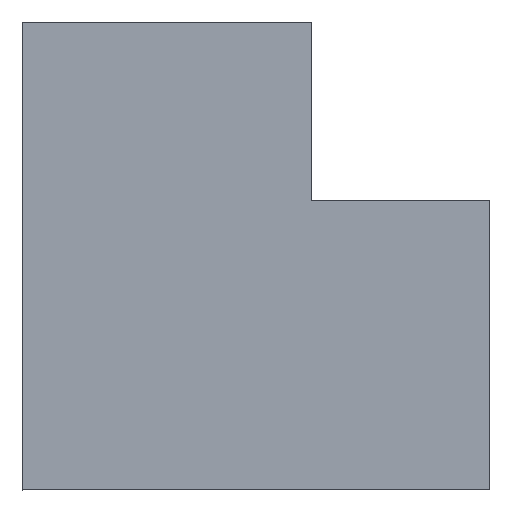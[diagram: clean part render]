
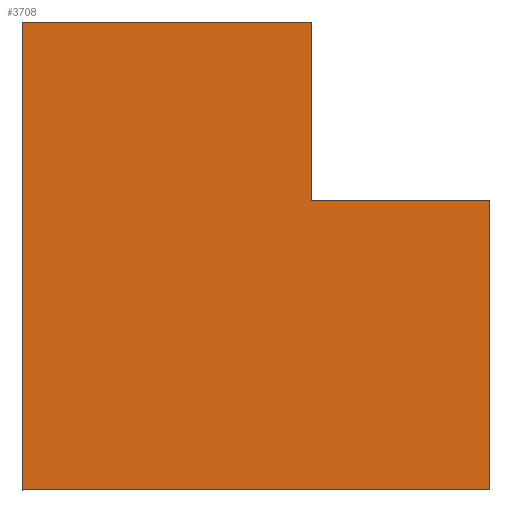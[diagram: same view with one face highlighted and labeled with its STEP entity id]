
A CAD part, top view. The second image highlights one B-rep face of the part: STEP entity #3708.
In plain terms, the highlighted planar face has unit normal (0, 0, 1).
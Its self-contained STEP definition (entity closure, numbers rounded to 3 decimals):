
#194=FACE_OUTER_BOUND('',#396,.T.);
#396=EDGE_LOOP('',(#2992,#2993,#2994,#2995,#2996,#2997));
#777=LINE('',#5631,#1277);
#809=LINE('',#5696,#1309);
#810=LINE('',#5698,#1310);
#811=LINE('',#5699,#1311);
#812=LINE('',#5701,#1312);
#813=LINE('',#5702,#1313);
#1277=VECTOR('',#4573,304.8);
#1309=VECTOR('',#4621,304.8);
#1310=VECTOR('',#4622,304.8);
#1311=VECTOR('',#4623,304.8);
#1312=VECTOR('',#4624,304.8);
#1313=VECTOR('',#4625,304.8);
#1713=VERTEX_POINT('',#5628);
#1714=VERTEX_POINT('',#5630);
#1738=VERTEX_POINT('',#5694);
#1739=VERTEX_POINT('',#5695);
#1740=VERTEX_POINT('',#5697);
#1741=VERTEX_POINT('',#5700);
#2155=EDGE_CURVE('',#1714,#1713,#777,.T.);
#2187=EDGE_CURVE('',#1738,#1739,#809,.T.);
#2188=EDGE_CURVE('',#1740,#1738,#810,.T.);
#2189=EDGE_CURVE('',#1714,#1740,#811,.T.);
#2190=EDGE_CURVE('',#1741,#1713,#812,.T.);
#2191=EDGE_CURVE('',#1739,#1741,#813,.T.);
#2992=ORIENTED_EDGE('',*,*,#2187,.F.);
#2993=ORIENTED_EDGE('',*,*,#2188,.F.);
#2994=ORIENTED_EDGE('',*,*,#2189,.F.);
#2995=ORIENTED_EDGE('',*,*,#2155,.T.);
#2996=ORIENTED_EDGE('',*,*,#2190,.F.);
#2997=ORIENTED_EDGE('',*,*,#2191,.F.);
#3522=PLANE('',#3931);
#3708=ADVANCED_FACE('',(#194),#3522,.T.);
#3931=AXIS2_PLACEMENT_3D('',#5693,#4619,#4620);
#4573=DIRECTION('',(1.,0.,0.));
#4619=DIRECTION('center_axis',(0.,0.,
1.));
#4620=DIRECTION('ref_axis',(1.,0.,0.));
#4621=DIRECTION('',(0.,1.,0.));
#4622=DIRECTION('',(-1.,0.,0.));
#4623=DIRECTION('',(0.,1.,0.));
#4624=DIRECTION('',(0.,-1.,0.));
#4625=DIRECTION('',(1.,0.,0.));
#5628=CARTESIAN_POINT('',(0.,-123.,19.7));
#5630=CARTESIAN_POINT('',(-76.,-123.,19.7));
#5631=CARTESIAN_POINT('',(-76.,-123.,19.7));
#5693=CARTESIAN_POINT('Origin',(-123.,-76.,19.7));
#5694=CARTESIAN_POINT('',(-123.,-76.,19.7));
#5695=CARTESIAN_POINT('',(-123.,0.,19.7));
#5696=CARTESIAN_POINT('',(-123.,-76.,19.7));
#5697=CARTESIAN_POINT('',(-76.,-76.,19.7));
#5698=CARTESIAN_POINT('',(-76.,-76.,19.7));
#5699=CARTESIAN_POINT('',(-76.,-123.,19.7));
#5700=CARTESIAN_POINT('',(0.,0.,19.7));
#5701=CARTESIAN_POINT('',(0.,0.,19.7));
#5702=CARTESIAN_POINT('',(-123.,0.,19.7));
